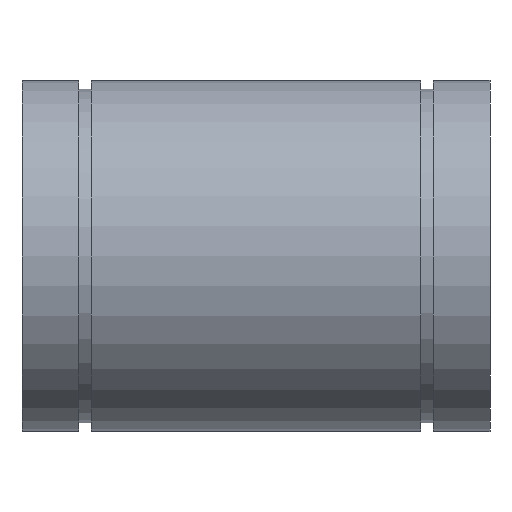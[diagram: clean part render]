
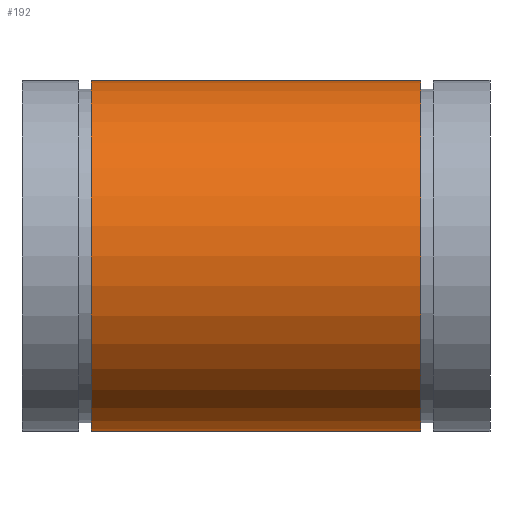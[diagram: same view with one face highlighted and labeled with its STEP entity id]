
A CAD part, front view. The second image highlights one B-rep face of the part: STEP entity #192.
In plain terms, the highlighted cylindrical face has radius 30 mm (diameter 60 mm), a partial arc.
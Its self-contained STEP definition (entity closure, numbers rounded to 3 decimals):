
#17 = DIRECTION ( 'NONE',  ( 0., 0., -1. ) ) ;
#37 = CARTESIAN_POINT ( 'NONE',  ( 28.2, 0., -30. ) ) ;
#44 = CARTESIAN_POINT ( 'NONE',  ( 28.2, 0., 0. ) ) ;
#66 = CIRCLE ( 'NONE', #401, 30. ) ;
#81 = AXIS2_PLACEMENT_3D ( 'NONE', #329, #209, #17 ) ;
#83 = VECTOR ( 'NONE', #442, 1000. ) ;
#90 = VERTEX_POINT ( 'NONE', #138 ) ;
#116 = LINE ( 'NONE', #198, #83 ) ;
#118 = CARTESIAN_POINT ( 'NONE',  ( -28.2, 0., 30. ) ) ;
#138 = CARTESIAN_POINT ( 'NONE',  ( 28.2, 0., 30. ) ) ;
#181 = FACE_OUTER_BOUND ( 'NONE', #497, .T. ) ;
#192 = ADVANCED_FACE ( 'NONE', ( #181 ), #415, .T. ) ;
#198 = CARTESIAN_POINT ( 'NONE',  ( 40., 0., 30. ) ) ;
#209 = DIRECTION ( 'NONE',  ( -1., 0., 0. ) ) ;
#238 = CIRCLE ( 'NONE', #427, 30. ) ;
#270 = VERTEX_POINT ( 'NONE', #37 ) ;
#271 = DIRECTION ( 'NONE',  ( -1., 0., 0. ) ) ;
#286 = ORIENTED_EDGE ( 'NONE', *, *, #510, .T. ) ;
#287 = DIRECTION ( 'NONE',  ( 0., 0., -1. ) ) ;
#313 = CARTESIAN_POINT ( 'NONE',  ( 40., 0., -30. ) ) ;
#325 = ORIENTED_EDGE ( 'NONE', *, *, #481, .F. ) ;
#326 = CARTESIAN_POINT ( 'NONE',  ( -28.2, 0., 0. ) ) ;
#329 = CARTESIAN_POINT ( 'NONE',  ( 40., 0., 0. ) ) ;
#330 = VECTOR ( 'NONE', #271, 1000. ) ;
#357 = LINE ( 'NONE', #313, #330 ) ;
#401 = AXIS2_PLACEMENT_3D ( 'NONE', #326, #518, #287 ) ;
#402 = CARTESIAN_POINT ( 'NONE',  ( -28.2, 0., -30. ) ) ;
#404 = EDGE_CURVE ( 'NONE', #270, #436, #357, .T. ) ;
#405 = DIRECTION ( 'NONE',  ( 1., 0., 0. ) ) ;
#412 = ORIENTED_EDGE ( 'NONE', *, *, #444, .T. ) ;
#415 = CYLINDRICAL_SURFACE ( 'NONE', #81, 30. ) ;
#427 = AXIS2_PLACEMENT_3D ( 'NONE', #44, #405, #486 ) ;
#436 = VERTEX_POINT ( 'NONE', #402 ) ;
#442 = DIRECTION ( 'NONE',  ( -1., 0., 0. ) ) ;
#444 = EDGE_CURVE ( 'NONE', #467, #436, #66, .T. ) ;
#467 = VERTEX_POINT ( 'NONE', #118 ) ;
#481 = EDGE_CURVE ( 'NONE', #90, #270, #238, .T. ) ;
#486 = DIRECTION ( 'NONE',  ( 0., 0., -1. ) ) ;
#497 = EDGE_LOOP ( 'NONE', ( #325, #286, #412, #504 ) ) ;
#504 = ORIENTED_EDGE ( 'NONE', *, *, #404, .F. ) ;
#510 = EDGE_CURVE ( 'NONE', #90, #467, #116, .T. ) ;
#518 = DIRECTION ( 'NONE',  ( 1., 0., 0. ) ) ;
